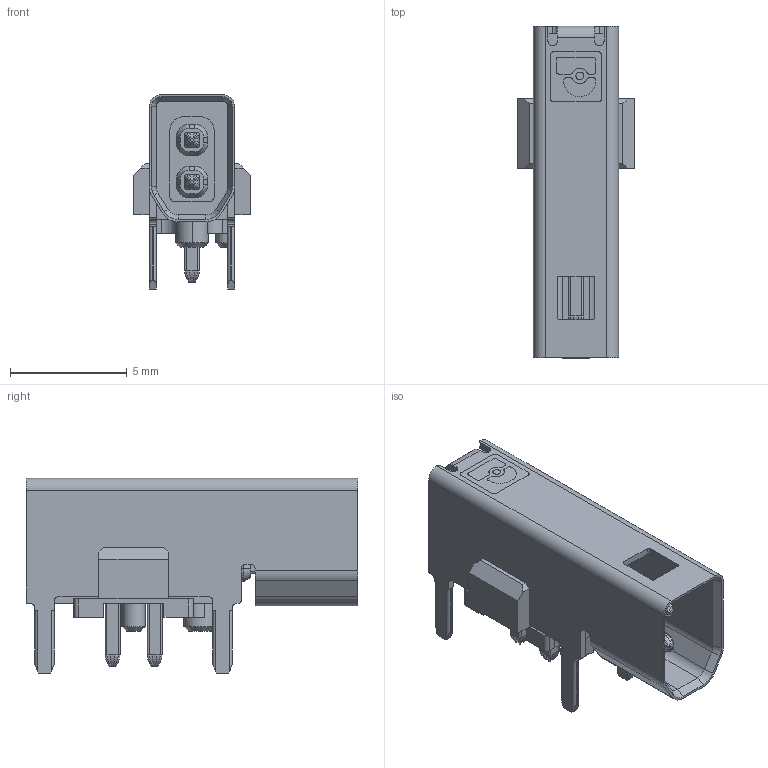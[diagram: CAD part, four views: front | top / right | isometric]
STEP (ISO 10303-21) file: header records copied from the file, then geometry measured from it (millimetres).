
FILE_DESCRIPTION(('Creo Elements/Direct Modeling STEP Export'),'2;1');
FILE_NAME('C:/Temp/JobServerData/JobServer Files/3f3aed6c-c735-427f-8b2e-03edd24e912e/work/output/model.stp','2021-02-25T 8:50:05',(''),(''),'Creo Elements/Direct Modeling STEP processor for AP214 (Solid Model)','Creo Elements/Direct Modeling 20.1D 10-Oct-2020 (C) Parametric Technology GmbH','');
FILE_SCHEMA(('AUTOMOTIVE_DESIGN { 1 0 10303 214 1 1 1 1 }'));
Length unit declared in the file: millimetre
Products named in the file (2): SPE-STRM-90-BG; SPE-STRM-90
Assembly tree (1 placements, depth 2):
  SPE-STRM-90
    SPE-STRM-90-BG
Bounding box: 5 x 14.2 x 8.35 mm (x, y, z)
Volume: 207.5 mm3; surface area: 460.1 mm2
Topology: 1 solids, 1 shells, 376 faces, 1049 edges, 685 vertices
Faces by surface type: plane 192, cylinder 102, bspline 64, cone 18
Entity records: 16373 total; most frequent: CARTESIAN_POINT 4552, ORIENTED_EDGE 2098, DIRECTION 1578, EDGE_CURVE 1049, VERTEX_POINT 685, VECTOR 620, LINE 620, AXIS2_PLACEMENT_3D 479
